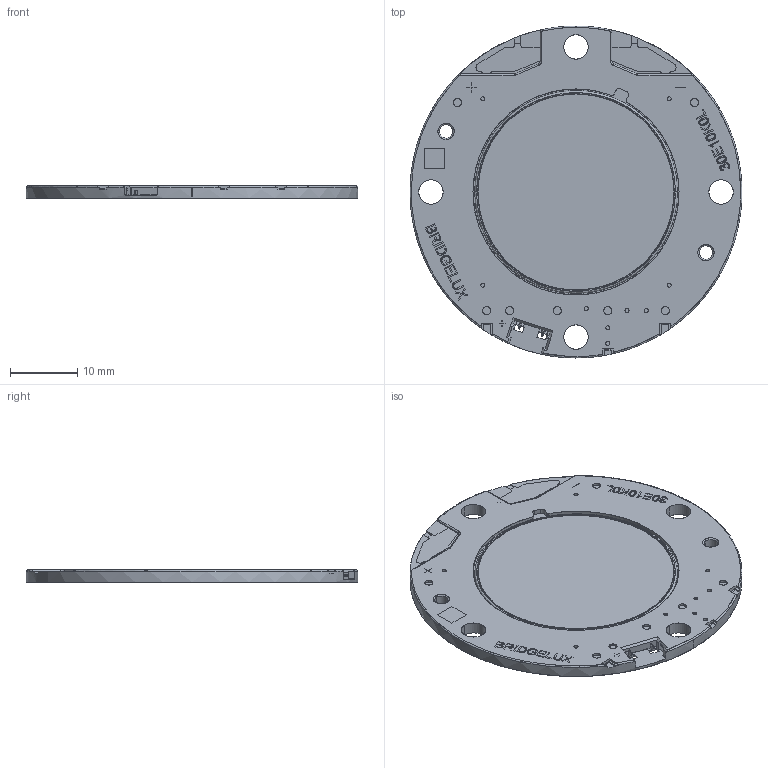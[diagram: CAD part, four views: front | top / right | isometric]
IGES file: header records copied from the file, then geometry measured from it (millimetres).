
Start section: SolidWorks IGES file using analytic representation for surfaces
Global section: file name: D:\Users\5160206\Desktop\3D document\GEN8\Assembly\Vero29\Vero\GEN8 Vero29.IGS; native system: SolidWorks 2018; preprocessor: SolidWorks 2018; author: 5160206; date: 200912.162231; units: millimetre
Bounding box: 49.2 x 49.2 x 1.8 mm (x, y, z)
Surface area: 4991.2 mm2 (no closed solid volume)
Topology: 0 solids, 0 shells, 1028 faces, 10147 edges, 10137 vertices
Faces by surface type: bspline 651, revolution 377
